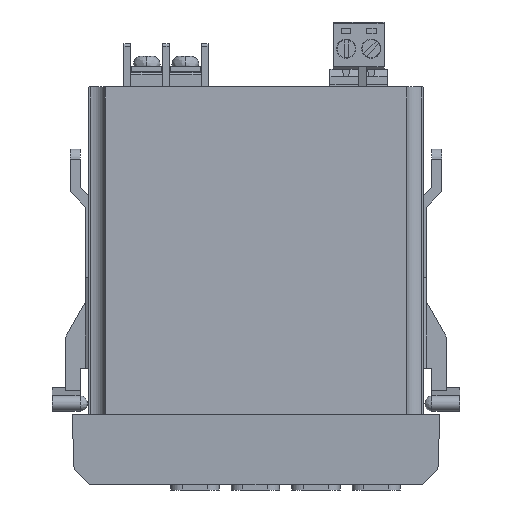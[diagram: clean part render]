
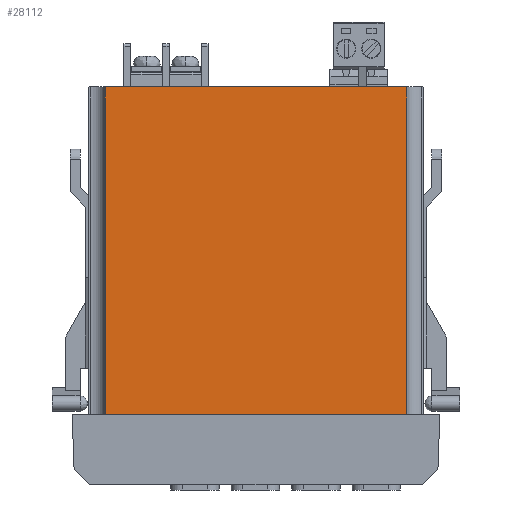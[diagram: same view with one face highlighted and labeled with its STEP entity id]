
A CAD part, front view. The second image highlights one B-rep face of the part: STEP entity #28112.
In plain terms, the highlighted planar face has unit normal (0, -1, 0.003).
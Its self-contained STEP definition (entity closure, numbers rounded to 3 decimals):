
#65 = VECTOR ( 'NONE', #19040, 1000. ) ;
#564 = CARTESIAN_POINT ( 'NONE',  ( 29.88, -33.32, -65. ) ) ;
#702 = DIRECTION ( 'NONE',  ( 1., 0., 0. ) ) ;
#915 = CARTESIAN_POINT ( 'NONE',  ( -17.72, -33.32, -65. ) ) ;
#1063 = ORIENTED_EDGE ( 'NONE', *, *, #9479, .T. ) ;
#1166 = VERTEX_POINT ( 'NONE', #30272 ) ;
#1359 = CARTESIAN_POINT ( 'NONE',  ( -11.77, -33.15, 0. ) ) ;
#1610 = LINE ( 'NONE', #9744, #27191 ) ;
#1946 = VERTEX_POINT ( 'NONE', #915 ) ;
#2107 = LINE ( 'NONE', #11004, #4077 ) ;
#2555 = VERTEX_POINT ( 'NONE', #4771 ) ;
#2619 = DIRECTION ( 'NONE',  ( 0., 0.003, 1. ) ) ;
#2826 = EDGE_CURVE ( 'NONE', #8983, #14497, #15459, .T. ) ;
#3058 = ORIENTED_EDGE ( 'NONE', *, *, #16835, .T. ) ;
#3204 = ORIENTED_EDGE ( 'NONE', *, *, #21944, .T. ) ;
#3530 = DIRECTION ( 'NONE',  ( 0., -0.003, -1. ) ) ;
#3555 = EDGE_CURVE ( 'NONE', #9990, #1166, #17400, .T. ) ;
#4077 = VECTOR ( 'NONE', #3530, 1000. ) ;
#4488 = EDGE_LOOP ( 'NONE', ( #20272, #26693, #1063, #13469, #20368, #24263, #3204, #28275, #22881, #22858, #3058, #26190 ) ) ;
#4771 = CARTESIAN_POINT ( 'NONE',  ( -11.77, -33.32, -65. ) ) ;
#4981 = EDGE_CURVE ( 'NONE', #1946, #25869, #24345, .T. ) ;
#5246 = EDGE_CURVE ( 'NONE', #17514, #32544, #14898, .T. ) ;
#5965 = CARTESIAN_POINT ( 'NONE',  ( -32.88, -33.15, 0. ) ) ;
#5989 = EDGE_CURVE ( 'NONE', #25869, #7384, #29364, .T. ) ;
#7298 = VECTOR ( 'NONE', #16121, 1000. ) ;
#7384 = VERTEX_POINT ( 'NONE', #29022 ) ;
#7491 = DIRECTION ( 'NONE',  ( 1., 0., 0. ) ) ;
#7652 = DIRECTION ( 'NONE',  ( 1., 0., 0. ) ) ;
#8029 = EDGE_CURVE ( 'NONE', #7384, #2555, #29247, .T. ) ;
#8983 = VERTEX_POINT ( 'NONE', #10873 ) ;
#9186 = DIRECTION ( 'NONE',  ( 0., -1., 0.003 ) ) ;
#9479 = EDGE_CURVE ( 'NONE', #2555, #17514, #20739, .T. ) ;
#9744 = CARTESIAN_POINT ( 'NONE',  ( 0., -33.328, -67.903 ) ) ;
#9755 = VECTOR ( 'NONE', #11409, 1000. ) ;
#9990 = VERTEX_POINT ( 'NONE', #10110 ) ;
#10110 = CARTESIAN_POINT ( 'NONE',  ( 17.48, -33.328, -67.903 ) ) ;
#10742 = CARTESIAN_POINT ( 'NONE',  ( 0., -33.32, -65. ) ) ;
#10809 = DIRECTION ( 'NONE',  ( -1., 0., 0. ) ) ;
#10873 = CARTESIAN_POINT ( 'NONE',  ( 29.88, -33.15, 0. ) ) ;
#11004 = CARTESIAN_POINT ( 'NONE',  ( -29.88, -33.15, 0. ) ) ;
#11255 = DIRECTION ( 'NONE',  ( 1., 0., 0. ) ) ;
#11409 = DIRECTION ( 'NONE',  ( 0., -0.003, -1. ) ) ;
#11600 = CARTESIAN_POINT ( 'NONE',  ( -29.88, -33.15, 0. ) ) ;
#11820 = VECTOR ( 'NONE', #2619, 1000. ) ;
#12582 = CARTESIAN_POINT ( 'NONE',  ( 11.53, -33.15, 0. ) ) ;
#13469 = ORIENTED_EDGE ( 'NONE', *, *, #5246, .T. ) ;
#13549 = CARTESIAN_POINT ( 'NONE',  ( 0., -33.32, -65. ) ) ;
#13940 = CARTESIAN_POINT ( 'NONE',  ( -17.72, -33.15, 0. ) ) ;
#14439 = VERTEX_POINT ( 'NONE', #564 ) ;
#14497 = VERTEX_POINT ( 'NONE', #11600 ) ;
#14898 = LINE ( 'NONE', #12582, #28220 ) ;
#15180 = LINE ( 'NONE', #25341, #16771 ) ;
#15459 = LINE ( 'NONE', #5965, #26412 ) ;
#16121 = DIRECTION ( 'NONE',  ( 1., 0., 0. ) ) ;
#16771 = VECTOR ( 'NONE', #7491, 1000. ) ;
#16835 = EDGE_CURVE ( 'NONE', #21539, #1946, #15180, .T. ) ;
#17020 = EDGE_CURVE ( 'NONE', #14497, #21539, #2107, .T. ) ;
#17400 = LINE ( 'NONE', #27913, #11820 ) ;
#17514 = VERTEX_POINT ( 'NONE', #19311 ) ;
#17997 = CARTESIAN_POINT ( 'NONE',  ( -29.88, -33.32, -65. ) ) ;
#19040 = DIRECTION ( 'NONE',  ( 0., 0.003, 1. ) ) ;
#19311 = CARTESIAN_POINT ( 'NONE',  ( 11.53, -33.32, -65. ) ) ;
#19594 = PLANE ( 'NONE',  #20376 ) ;
#20230 = CARTESIAN_POINT ( 'NONE',  ( -17.72, -33.328, -67.903 ) ) ;
#20272 = ORIENTED_EDGE ( 'NONE', *, *, #5989, .T. ) ;
#20361 = VECTOR ( 'NONE', #11255, 1000. ) ;
#20368 = ORIENTED_EDGE ( 'NONE', *, *, #31117, .T. ) ;
#20376 = AXIS2_PLACEMENT_3D ( 'NONE', #26910, #9186, #29541 ) ;
#20739 = LINE ( 'NONE', #13549, #7298 ) ;
#21539 = VERTEX_POINT ( 'NONE', #17997 ) ;
#21944 = EDGE_CURVE ( 'NONE', #1166, #14439, #32712, .T. ) ;
#22183 = DIRECTION ( 'NONE',  ( 0., -0.003, -1. ) ) ;
#22678 = FACE_OUTER_BOUND ( 'NONE', #4488, .T. ) ;
#22858 = ORIENTED_EDGE ( 'NONE', *, *, #17020, .T. ) ;
#22881 = ORIENTED_EDGE ( 'NONE', *, *, #2826, .T. ) ;
#23627 = EDGE_CURVE ( 'NONE', #14439, #8983, #25888, .T. ) ;
#23884 = CARTESIAN_POINT ( 'NONE',  ( 11.53, -33.328, -67.903 ) ) ;
#24263 = ORIENTED_EDGE ( 'NONE', *, *, #3555, .T. ) ;
#24345 = LINE ( 'NONE', #13940, #9755 ) ;
#25140 = CARTESIAN_POINT ( 'NONE',  ( 29.88, -33.15, 0. ) ) ;
#25341 = CARTESIAN_POINT ( 'NONE',  ( 0., -33.32, -65. ) ) ;
#25869 = VERTEX_POINT ( 'NONE', #20230 ) ;
#25888 = LINE ( 'NONE', #25140, #29418 ) ;
#26190 = ORIENTED_EDGE ( 'NONE', *, *, #4981, .T. ) ;
#26412 = VECTOR ( 'NONE', #10809, 1000. ) ;
#26647 = CARTESIAN_POINT ( 'NONE',  ( 0., -33.328, -67.903 ) ) ;
#26693 = ORIENTED_EDGE ( 'NONE', *, *, #8029, .T. ) ;
#26810 = VECTOR ( 'NONE', #702, 1000. ) ;
#26910 = CARTESIAN_POINT ( 'NONE',  ( 0., -33.15, 0. ) ) ;
#27191 = VECTOR ( 'NONE', #7652, 1000. ) ;
#27913 = CARTESIAN_POINT ( 'NONE',  ( 17.48, -33.15, 0. ) ) ;
#28112 = ADVANCED_FACE ( 'NONE', ( #22678 ), #19594, .T. ) ;
#28220 = VECTOR ( 'NONE', #22183, 1000. ) ;
#28275 = ORIENTED_EDGE ( 'NONE', *, *, #23627, .T. ) ;
#29022 = CARTESIAN_POINT ( 'NONE',  ( -11.77, -33.328, -67.903 ) ) ;
#29247 = LINE ( 'NONE', #1359, #65 ) ;
#29364 = LINE ( 'NONE', #26647, #20361 ) ;
#29418 = VECTOR ( 'NONE', #30416, 1000. ) ;
#29541 = DIRECTION ( 'NONE',  ( 0., -0.003, -1. ) ) ;
#30272 = CARTESIAN_POINT ( 'NONE',  ( 17.48, -33.32, -65. ) ) ;
#30416 = DIRECTION ( 'NONE',  ( 0., 0.003, 1. ) ) ;
#31117 = EDGE_CURVE ( 'NONE', #32544, #9990, #1610, .T. ) ;
#32544 = VERTEX_POINT ( 'NONE', #23884 ) ;
#32712 = LINE ( 'NONE', #10742, #26810 ) ;
